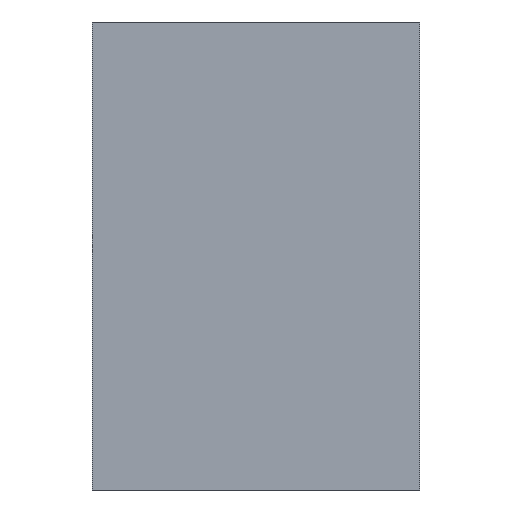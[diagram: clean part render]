
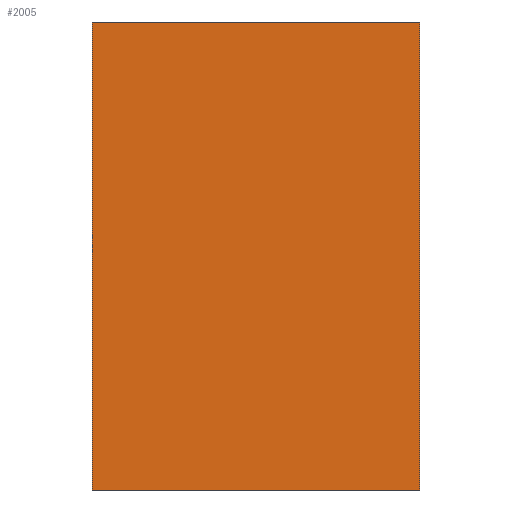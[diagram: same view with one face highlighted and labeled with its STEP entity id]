
A CAD part, left-side view. The second image highlights one B-rep face of the part: STEP entity #2005.
In plain terms, the highlighted planar face has unit normal (-1, 0, 0).
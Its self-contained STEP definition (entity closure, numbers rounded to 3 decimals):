
#407 = CYLINDRICAL_SURFACE('',#408,6.);
#408 = AXIS2_PLACEMENT_3D('',#409,#410,#411);
#409 = CARTESIAN_POINT('',(36.,-5.2,-47.));
#410 = DIRECTION('',(0.,0.,1.));
#411 = DIRECTION('',(0.,-1.,0.));
#440 = PLANE('',#441);
#441 = AXIS2_PLACEMENT_3D('',#442,#443,#444);
#442 = CARTESIAN_POINT('',(40.8,-9.7,29.5));
#443 = DIRECTION('',(0.,0.,1.));
#444 = DIRECTION('',(1.,0.,-0.));
#562 = PLANE('',#563);
#563 = AXIS2_PLACEMENT_3D('',#564,#565,#566);
#564 = CARTESIAN_POINT('',(40.8,-9.7,6.5));
#565 = DIRECTION('',(0.,0.,1.));
#566 = DIRECTION('',(1.,0.,-0.));
#1153 = VERTEX_POINT('',#1154);
#1154 = CARTESIAN_POINT('',(40.8,-8.8,6.5));
#1180 = VERTEX_POINT('',#1181);
#1181 = CARTESIAN_POINT('',(40.8,-8.8,29.5));
#1203 = EDGE_CURVE('',#1180,#1153,#1204,.T.);
#1204 = SURFACE_CURVE('',#1205,(#1209,#1216),.PCURVE_S1.);
#1205 = LINE('',#1206,#1207);
#1206 = CARTESIAN_POINT('',(40.8,-8.8,29.5));
#1207 = VECTOR('',#1208,1.);
#1208 = DIRECTION('',(0.,0.,-1.));
#1209 = PCURVE('',#407,#1210);
#1210 = DEFINITIONAL_REPRESENTATION('',(#1211),#1215);
#1211 = LINE('',#1212,#1213);
#1212 = CARTESIAN_POINT('',(0.927,76.5));
#1213 = VECTOR('',#1214,1.);
#1214 = DIRECTION('',(-0.,-1.));
#1215 = ( GEOMETRIC_REPRESENTATION_CONTEXT(2) 
PARAMETRIC_REPRESENTATION_CONTEXT() REPRESENTATION_CONTEXT('2D SPACE',''
  ) );
#1216 = PCURVE('',#1217,#1222);
#1217 = PLANE('',#1218);
#1218 = AXIS2_PLACEMENT_3D('',#1219,#1220,#1221);
#1219 = CARTESIAN_POINT('',(40.8,-9.7,6.5));
#1220 = DIRECTION('',(1.,0.,0.));
#1221 = DIRECTION('',(0.,0.,1.));
#1222 = DEFINITIONAL_REPRESENTATION('',(#1223),#1227);
#1223 = LINE('',#1224,#1225);
#1224 = CARTESIAN_POINT('',(23.,-0.9));
#1225 = VECTOR('',#1226,1.);
#1226 = DIRECTION('',(-1.,0.));
#1227 = ( GEOMETRIC_REPRESENTATION_CONTEXT(2) 
PARAMETRIC_REPRESENTATION_CONTEXT() REPRESENTATION_CONTEXT('2D SPACE',''
  ) );
#1232 = EDGE_CURVE('',#1180,#1233,#1235,.T.);
#1233 = VERTEX_POINT('',#1234);
#1234 = CARTESIAN_POINT('',(40.8,7.3,29.5));
#1235 = SURFACE_CURVE('',#1236,(#1240,#1247),.PCURVE_S1.);
#1236 = LINE('',#1237,#1238);
#1237 = CARTESIAN_POINT('',(40.8,-9.7,29.5));
#1238 = VECTOR('',#1239,1.);
#1239 = DIRECTION('',(0.,1.,0.));
#1240 = PCURVE('',#440,#1241);
#1241 = DEFINITIONAL_REPRESENTATION('',(#1242),#1246);
#1242 = LINE('',#1243,#1244);
#1243 = CARTESIAN_POINT('',(0.,0.));
#1244 = VECTOR('',#1245,1.);
#1245 = DIRECTION('',(0.,1.));
#1246 = ( GEOMETRIC_REPRESENTATION_CONTEXT(2) 
PARAMETRIC_REPRESENTATION_CONTEXT() REPRESENTATION_CONTEXT('2D SPACE',''
  ) );
#1247 = PCURVE('',#1217,#1248);
#1248 = DEFINITIONAL_REPRESENTATION('',(#1249),#1253);
#1249 = LINE('',#1250,#1251);
#1250 = CARTESIAN_POINT('',(23.,0.));
#1251 = VECTOR('',#1252,1.);
#1252 = DIRECTION('',(0.,-1.));
#1253 = ( GEOMETRIC_REPRESENTATION_CONTEXT(2) 
PARAMETRIC_REPRESENTATION_CONTEXT() REPRESENTATION_CONTEXT('2D SPACE',''
  ) );
#1295 = PLANE('',#1296);
#1296 = AXIS2_PLACEMENT_3D('',#1297,#1298,#1299);
#1297 = CARTESIAN_POINT('',(40.8,7.3,6.5));
#1298 = DIRECTION('',(0.,1.,0.));
#1299 = DIRECTION('',(0.,-0.,1.));
#1359 = EDGE_CURVE('',#1153,#1360,#1362,.T.);
#1360 = VERTEX_POINT('',#1361);
#1361 = CARTESIAN_POINT('',(40.8,7.3,6.5));
#1362 = SURFACE_CURVE('',#1363,(#1367,#1374),.PCURVE_S1.);
#1363 = LINE('',#1364,#1365);
#1364 = CARTESIAN_POINT('',(40.8,-9.7,6.5));
#1365 = VECTOR('',#1366,1.);
#1366 = DIRECTION('',(0.,1.,0.));
#1367 = PCURVE('',#562,#1368);
#1368 = DEFINITIONAL_REPRESENTATION('',(#1369),#1373);
#1369 = LINE('',#1370,#1371);
#1370 = CARTESIAN_POINT('',(0.,0.));
#1371 = VECTOR('',#1372,1.);
#1372 = DIRECTION('',(0.,1.));
#1373 = ( GEOMETRIC_REPRESENTATION_CONTEXT(2) 
PARAMETRIC_REPRESENTATION_CONTEXT() REPRESENTATION_CONTEXT('2D SPACE',''
  ) );
#1374 = PCURVE('',#1217,#1375);
#1375 = DEFINITIONAL_REPRESENTATION('',(#1376),#1380);
#1376 = LINE('',#1377,#1378);
#1377 = CARTESIAN_POINT('',(0.,0.));
#1378 = VECTOR('',#1379,1.);
#1379 = DIRECTION('',(0.,-1.));
#1380 = ( GEOMETRIC_REPRESENTATION_CONTEXT(2) 
PARAMETRIC_REPRESENTATION_CONTEXT() REPRESENTATION_CONTEXT('2D SPACE',''
  ) );
#2005 = ADVANCED_FACE('',(#2006),#1217,.F.);
#2006 = FACE_BOUND('',#2007,.F.);
#2007 = EDGE_LOOP('',(#2008,#2009,#2010,#2011));
#2008 = ORIENTED_EDGE('',*,*,#1232,.F.);
#2009 = ORIENTED_EDGE('',*,*,#1203,.T.);
#2010 = ORIENTED_EDGE('',*,*,#1359,.T.);
#2011 = ORIENTED_EDGE('',*,*,#2012,.T.);
#2012 = EDGE_CURVE('',#1360,#1233,#2013,.T.);
#2013 = SURFACE_CURVE('',#2014,(#2018,#2025),.PCURVE_S1.);
#2014 = LINE('',#2015,#2016);
#2015 = CARTESIAN_POINT('',(40.8,7.3,6.5));
#2016 = VECTOR('',#2017,1.);
#2017 = DIRECTION('',(0.,0.,1.));
#2018 = PCURVE('',#1217,#2019);
#2019 = DEFINITIONAL_REPRESENTATION('',(#2020),#2024);
#2020 = LINE('',#2021,#2022);
#2021 = CARTESIAN_POINT('',(0.,-17.));
#2022 = VECTOR('',#2023,1.);
#2023 = DIRECTION('',(1.,0.));
#2024 = ( GEOMETRIC_REPRESENTATION_CONTEXT(2) 
PARAMETRIC_REPRESENTATION_CONTEXT() REPRESENTATION_CONTEXT('2D SPACE',''
  ) );
#2025 = PCURVE('',#1295,#2026);
#2026 = DEFINITIONAL_REPRESENTATION('',(#2027),#2031);
#2027 = LINE('',#2028,#2029);
#2028 = CARTESIAN_POINT('',(0.,0.));
#2029 = VECTOR('',#2030,1.);
#2030 = DIRECTION('',(1.,0.));
#2031 = ( GEOMETRIC_REPRESENTATION_CONTEXT(2) 
PARAMETRIC_REPRESENTATION_CONTEXT() REPRESENTATION_CONTEXT('2D SPACE',''
  ) );
